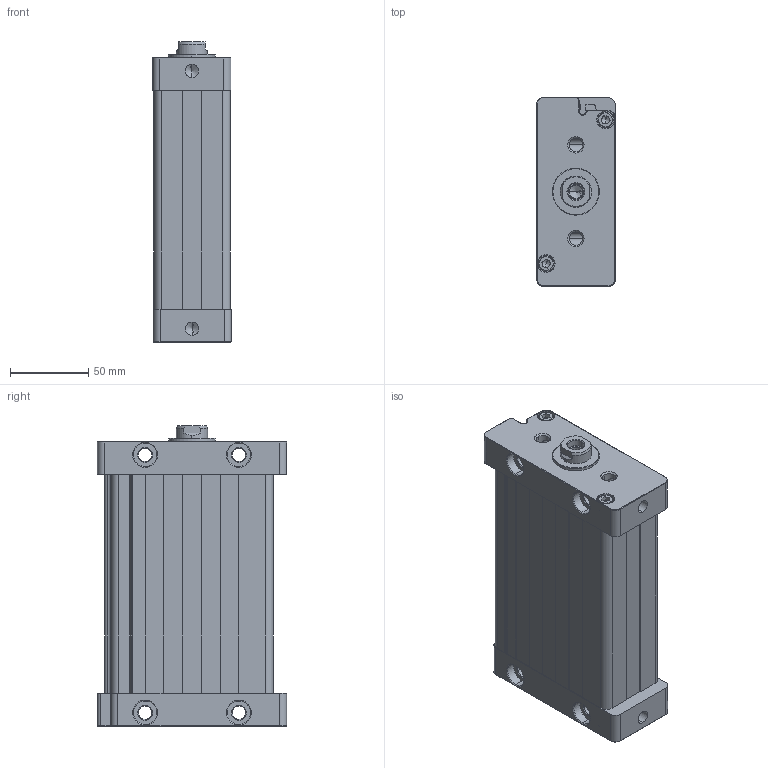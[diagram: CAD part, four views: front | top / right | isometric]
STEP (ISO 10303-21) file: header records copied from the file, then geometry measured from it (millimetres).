
FILE_DESCRIPTION (( 'STEP AP214' ), '1' );
FILE_NAME ('WOSC-063-0100.STEP', '2024-02-22T12:17:52', ( '' ), ( '' ), 'SwSTEP 2.0', 'SolidWorks 2015', '' );
FILE_SCHEMA (( 'AUTOMOTIVE_DESIGN' ));
Length unit declared in the file: millimetre
Products named in the file (3): Group1^WOSC-063-0100; WOSC-063-0100; Group2^WOSC-063-0100
Assembly tree (2 placements, depth 2):
  WOSC-063-0100
    Group1^WOSC-063-0100
    Group2^WOSC-063-0100
Bounding box: 50.14 x 121.05 x 192 mm (x, y, z)
Volume: 640672.7 mm3; surface area: 170428.1 mm2
Topology: 10 solids, 10 shells, 563 faces, 1377 edges, 856 vertices
Faces by surface type: plane 269, cylinder 146, cone 120, torus 16, bspline 12
Entity records: 17035 total; most frequent: CARTESIAN_POINT 3321, DIRECTION 2861, ORIENTED_EDGE 2722, EDGE_CURVE 1361, AXIS2_PLACEMENT_3D 1004, VERTEX_POINT 856, LINE 853, VECTOR 853
